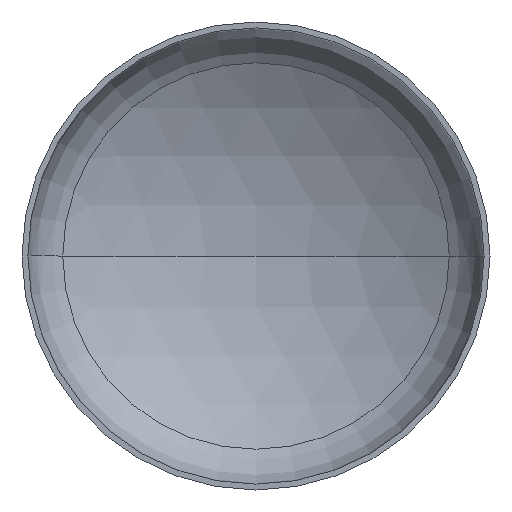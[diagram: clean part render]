
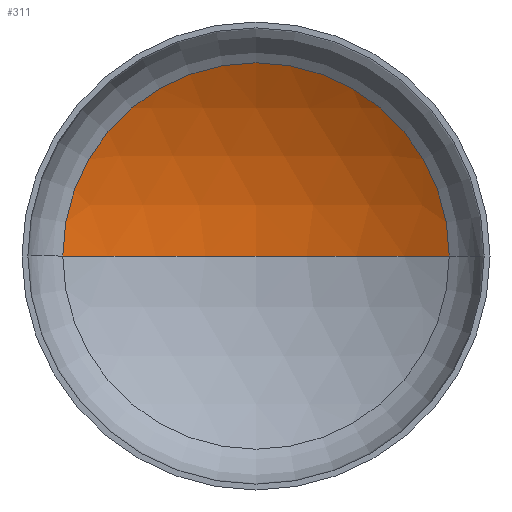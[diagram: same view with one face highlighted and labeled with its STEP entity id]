
A CAD part, front view. The second image highlights one B-rep face of the part: STEP entity #311.
In plain terms, the highlighted spherical face has radius 2880 mm.
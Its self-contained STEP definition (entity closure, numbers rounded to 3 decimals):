
#1 = CARTESIAN_POINT ( 'NONE',  ( 0., -1851.388, 0. ) ) ;
#3 = AXIS2_PLACEMENT_3D ( 'NONE', #255, #301, #16 ) ;
#9 = EDGE_LOOP ( 'NONE', ( #131, #57, #182 ) ) ;
#11 = AXIS2_PLACEMENT_3D ( 'NONE', #49, #30, #157 ) ;
#16 = DIRECTION ( 'NONE',  ( 1., 0., 0. ) ) ;
#22 = CIRCLE ( 'NONE', #32, 2880. ) ;
#30 = DIRECTION ( 'NONE',  ( 0., 0., -1. ) ) ;
#32 = AXIS2_PLACEMENT_3D ( 'NONE', #1, #231, #298 ) ;
#34 = AXIS2_PLACEMENT_3D ( 'NONE', #185, #189, #94 ) ;
#49 = CARTESIAN_POINT ( 'NONE',  ( 0., -1851.388, 0. ) ) ;
#57 = ORIENTED_EDGE ( 'NONE', *, *, #88, .T. ) ;
#81 = EDGE_CURVE ( 'NONE', #394, #187, #152, .T. ) ;
#88 = EDGE_CURVE ( 'NONE', #138, #394, #22, .T. ) ;
#94 = DIRECTION ( 'NONE',  ( 1., 0., 0. ) ) ;
#107 = CARTESIAN_POINT ( 'NONE',  ( 1486.452, 615.364, 0. ) ) ;
#131 = ORIENTED_EDGE ( 'NONE', *, *, #359, .F. ) ;
#138 = VERTEX_POINT ( 'NONE', #171 ) ;
#152 = CIRCLE ( 'NONE', #34, 1486.452 ) ;
#157 = DIRECTION ( 'NONE',  ( -1., 0., 0. ) ) ;
#171 = CARTESIAN_POINT ( 'NONE',  ( 0., 1028.612, 0. ) ) ;
#182 = ORIENTED_EDGE ( 'NONE', *, *, #81, .T. ) ;
#185 = CARTESIAN_POINT ( 'NONE',  ( 0., 615.364, 0. ) ) ;
#187 = VERTEX_POINT ( 'NONE', #257 ) ;
#189 = DIRECTION ( 'NONE',  ( 0., -1., 0. ) ) ;
#231 = DIRECTION ( 'NONE',  ( 0., 0., -1. ) ) ;
#255 = CARTESIAN_POINT ( 'NONE',  ( 0., -1851.388, 0. ) ) ;
#257 = CARTESIAN_POINT ( 'NONE',  ( -1486.452, 615.364, 0. ) ) ;
#272 = CIRCLE ( 'NONE', #3, 2880. ) ;
#279 = FACE_OUTER_BOUND ( 'NONE', #9, .T. ) ;
#298 = DIRECTION ( 'NONE',  ( -1., 0., 0. ) ) ;
#301 = DIRECTION ( 'NONE',  ( 0., 0., 1. ) ) ;
#311 = ADVANCED_FACE ( 'NONE', ( #279 ), #409, .F. ) ;
#359 = EDGE_CURVE ( 'NONE', #138, #187, #272, .T. ) ;
#394 = VERTEX_POINT ( 'NONE', #107 ) ;
#409 = SPHERICAL_SURFACE ( 'NONE', #11, 2880. ) ;
